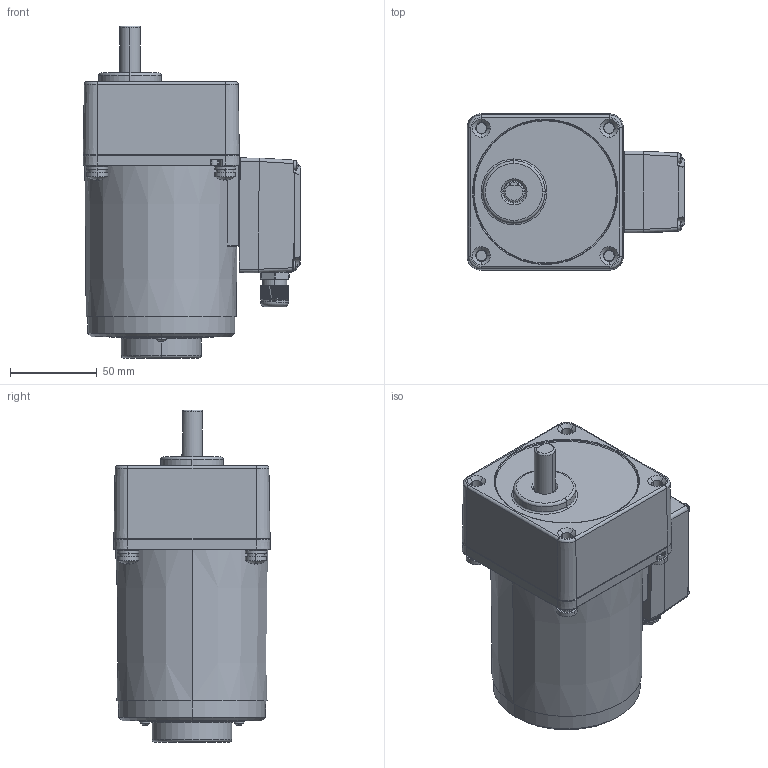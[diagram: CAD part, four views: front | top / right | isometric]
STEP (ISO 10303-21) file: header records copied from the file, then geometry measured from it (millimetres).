
FILE_DESCRIPTION (( 'STEP AP203' ), '1' );
FILE_NAME ('5IK40RGN-CT(5GN3K-18K).STEP', '2023-08-08T05:13:59', ( 'Windows User' ), ( 'P R C' ), 'SwSTEP 2.0', 'SolidWorks 2019', '' );
FILE_SCHEMA (( 'CONFIG_CONTROL_DESIGN' ));
Length unit declared in the file: millimetre
Products named in the file (16): ^____5IK40RGN-CT(5GN3K-18K)(2)_5IK40RGN-CT(5GN3K-18K); 5IK40RGN-CT(5GN3K-18K)(2)^5IK40RGN-CT(5GN3K-18K); 70TSJXHG^__5IK40RGN-CT(5GN3K-18K)(2)_5IK40RGN-CT(5GN3K-18K); ^_5IK40RGN-CT(5GN3K-18K)(2)_5IK40RGN-CT(5GN3K-18K); ^70TSJXHG___5IK40RGN-CT(5GN3K-18K)(2)_5IK40RGN-CT(5GN3K-18K); 葩璃 (2) ^_70TSJXHG___5IK40RGN-CT(5GN3K-18K)(2)_5IK40RGN-CT(5GN3K-18K); ^__5IK40RGN-CT(5GN3K-18K)(2)_5IK40RGN-CT(5GN3K-18K); 葩璃 (3) ^____5IK40RGN-CT(5GN3K-18K)(2)_5IK40RGN-CT(5GN3K-18K); ^5IK40RGN-CT(5GN3K-18K)(2)_5IK40RGN-CT(5GN3K-18K); ^_70TSJXHG___5IK40RGN-CT(5GN3K-18K)(2)_5IK40RGN-CT(5GN3K-18K); 5GN3K-18K^5IK40RGN-CT(5GN3K-18K)(2)_5IK40RGN-CT(5GN3K-18K); 5IK40RGN-CT(5GN3K-18K); 葩璃 (3) ^_70TSJXHG___5IK40RGN-CT(5GN3K-18K)(2)_5IK40RGN-CT(5GN3K-18K); 葩璃 (2) ^____5IK40RGN-CT(5GN3K-18K)(2)_5IK40RGN-CT(5GN3K-18K); ^___5IK40RGN-CT(5GN3K-18K)(2)_5IK40RGN-CT(5GN3K-18K)
Assembly tree (18 placements, depth 7):
  5IK40RGN-CT(5GN3K-18K)
    5IK40RGN-CT(5GN3K-18K)(2)^5IK40RGN-CT(5GN3K-18K)
      ^5IK40RGN-CT(5GN3K-18K)(2)_5IK40RGN-CT(5GN3K-18K)
        ^_5IK40RGN-CT(5GN3K-18K)(2)_5IK40RGN-CT(5GN3K-18K)
          70TSJXHG^__5IK40RGN-CT(5GN3K-18K)(2)_5IK40RGN-CT(5GN3K-18K)
            ^70TSJXHG___5IK40RGN-CT(5GN3K-18K)(2)_5IK40RGN-CT(5GN3K-18K)
              ^_70TSJXHG___5IK40RGN-CT(5GN3K-18K)(2)_5IK40RGN-CT(5GN3K-18K)
              葩璃 (2) ^_70TSJXHG___5IK40RGN-CT(5GN3K-18K)(2)_5IK40RGN-CT(5GN3K-18K)
              葩璃 (3) ^_70TSJXHG___5IK40RGN-CT(5GN3K-18K)(2)_5IK40RGN-CT(5GN3K-18K)  x4
          ^__5IK40RGN-CT(5GN3K-18K)(2)_5IK40RGN-CT(5GN3K-18K)
            ^___5IK40RGN-CT(5GN3K-18K)(2)_5IK40RGN-CT(5GN3K-18K)
              ^____5IK40RGN-CT(5GN3K-18K)(2)_5IK40RGN-CT(5GN3K-18K)
              葩璃 (2) ^____5IK40RGN-CT(5GN3K-18K)(2)_5IK40RGN-CT(5GN3K-18K)
              葩璃 (3) ^____5IK40RGN-CT(5GN3K-18K)(2)_5IK40RGN-CT(5GN3K-18K)
          ^__5IK40RGN-CT(5GN3K-18K)(2)_5IK40RGN-CT(5GN3K-18K)
      5GN3K-18K^5IK40RGN-CT(5GN3K-18K)(2)_5IK40RGN-CT(5GN3K-18K)
Bounding box: 125.44 x 90 x 191.25 mm (x, y, z)
Volume: 1083474.5 mm3; surface area: 128820.8 mm2
Topology: 41 solids, 41 shells, 1923 faces, 4925 edges, 3101 vertices
Faces by surface type: cylinder 670, plane 525, cone 508, torus 106, sphere 96, bspline 18
Entity records: 53905 total; most frequent: CARTESIAN_POINT 14302, DIRECTION 8473, ORIENTED_EDGE 7778, EDGE_CURVE 3889, AXIS2_PLACEMENT_3D 3507, VERTEX_POINT 2485, CIRCLE 1961, EDGE_LOOP 1632
